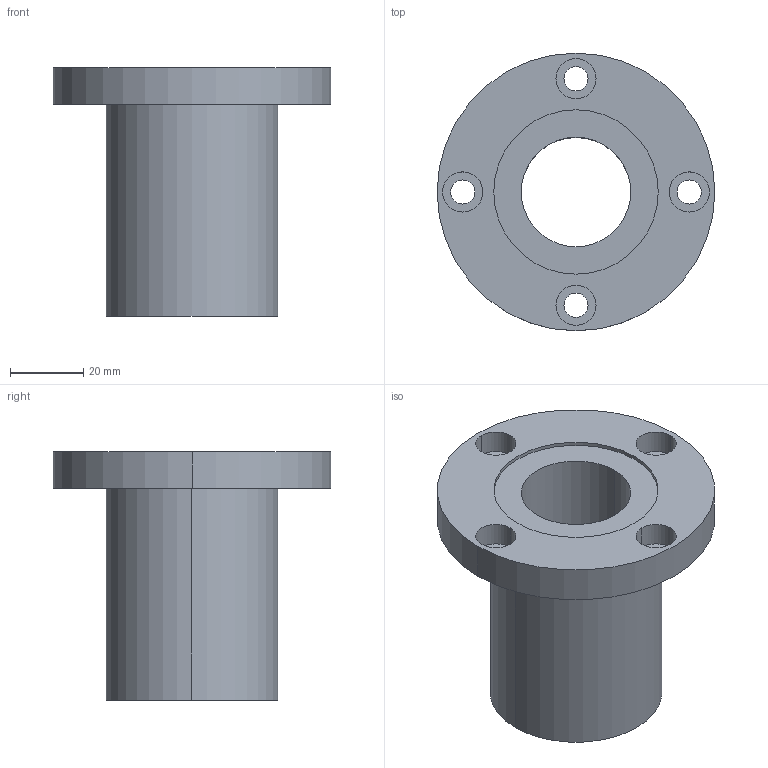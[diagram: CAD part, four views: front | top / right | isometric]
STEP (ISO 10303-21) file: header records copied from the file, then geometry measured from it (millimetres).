
FILE_DESCRIPTION((''),'2;1');
FILE_NAME('C:\Documents and Settings\ｿﾀﾀ蠑ｷ1\ｹﾙﾅﾁ ﾈｭｸ饅\ｺﾎﾇｰﾆﾄﾀﾏ\ﾁｦﾇｰ\LMEF__UU\LMEF30UU.stp','2005-06-15T10:51:17',('ｿﾀﾀ蠑ｷ1'),(''),'Autodesk Inventor 9','Autodesk Inventor 9','');
FILE_SCHEMA(('AUTOMOTIVE_DESIGN { 1 0 10303 214 1 1 1 1 }'));
Length unit declared in the file: millimetre
Products named in the file (1): LMEF__(L)
Bounding box: 76 x 76 x 68 mm (x, y, z)
Volume: 93208.3 mm3; surface area: 26028.8 mm2
Topology: 1 solids, 1 shells, 35 faces, 78 edges, 52 vertices
Faces by surface type: bspline 20, cylinder 10, plane 5
Entity records: 1255 total; most frequent: CARTESIAN_POINT 450, DIRECTION 162, ORIENTED_EDGE 156, EDGE_CURVE 78, AXIS2_PLACEMENT_3D 68, VERTEX_POINT 52, CIRCLE 52, EDGE_LOOP 52
